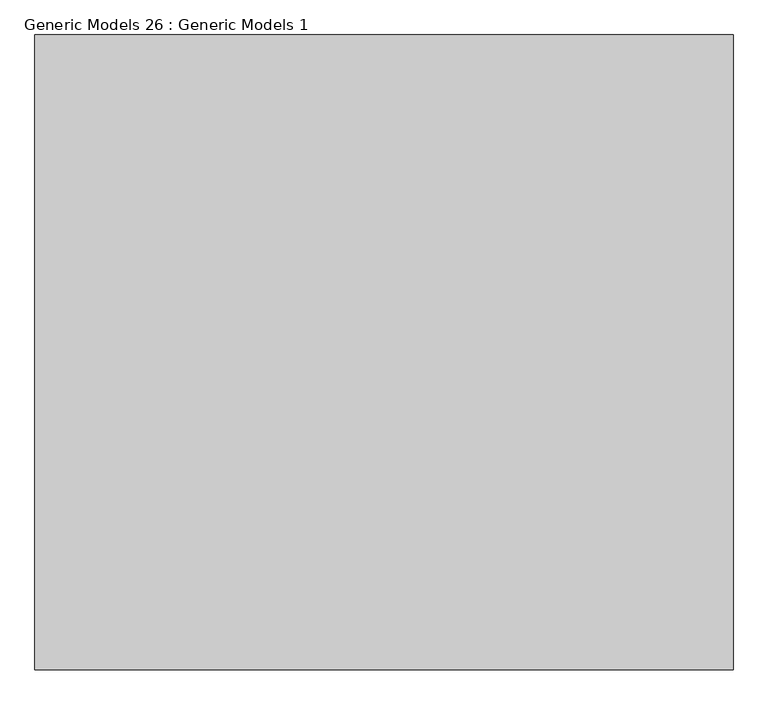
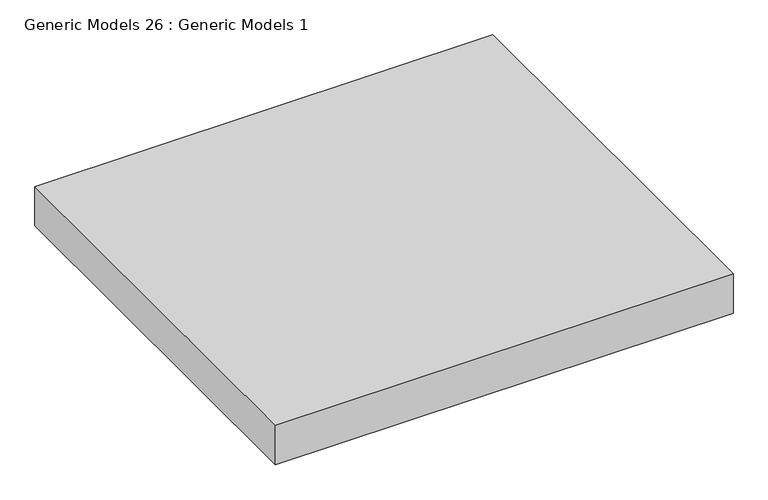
"""IFC4 building model written with IfcOpenShell, lengths in millimetres: proxy geometry, Generic Models 26 : Generic Models 1."""

from ifc_helpers import new_model, si_unit, origin, origin_with_axes, place, context, project, spatial, polyline, outline, extrude, source, transform, mapped, element, save


def generic_models_26_generic_models_1_b80be366(model_context):
    return source(origin(), model_context, "Body", "SweptSolid", [
        extrude(outline(polyline([(7844.9769358, -9086.5772826), (7844.9769358, -8086.5772826), (8944.9769358, -8086.5772826), (8944.9769358, -9086.5772826), (7844.9769358, -9086.5772826)])), origin_with_axes(), (0.0, 0.0, 1.0), 100.0),
    ])


if __name__ == "__main__":
    model = new_model("IFC4")
    model_context = context("Model", 3, world=origin())
    ifc_project = project(units=[si_unit("LENGTHUNIT", "METRE", prefix="MILLI")], contexts=[model_context])
    site = spatial("IfcSite", under=ifc_project)
    building = spatial("IfcBuilding", under=site)
    placement = place(None, origin())
    generic_models_26_generic_models_1_shape = generic_models_26_generic_models_1_b80be366(model_context)
    element("IfcBuildingElementProxy", 1, Name="Generic Models 26 : Generic Models 1", ObjectType="Generic Models 26 : Generic Models 1", at=placement, inside=building, context=model_context, shape_type="MappedRepresentation", body=[
        mapped(generic_models_26_generic_models_1_shape, transform((0.0, 0.0, 0.0), x_axis=(1.0, 0.0, 0.0), y_axis=(0.0, 1.0, 0.0), z_axis=(0.0, 0.0, 1.0))),
    ])
    save(model, "model.ifc")
